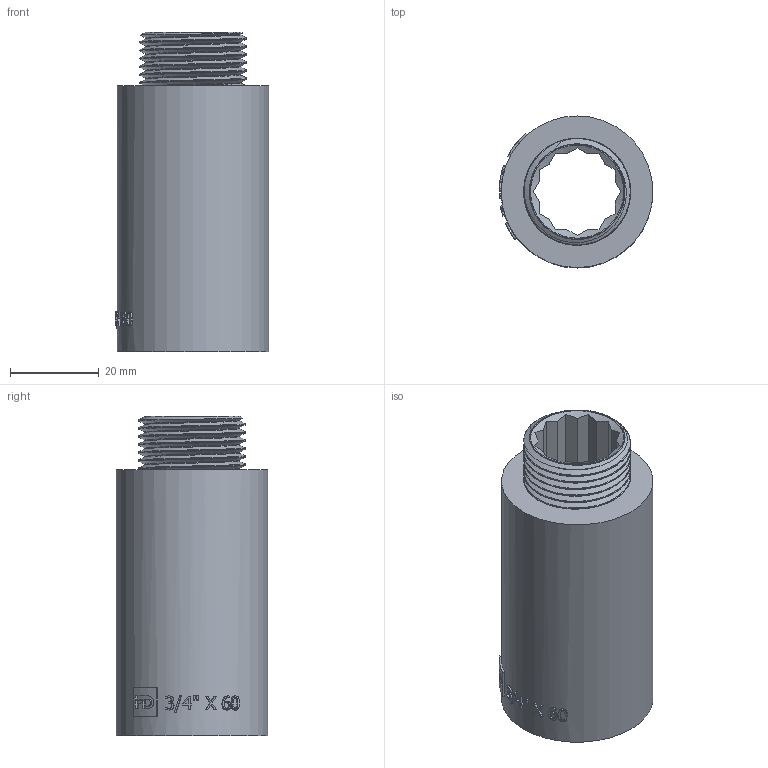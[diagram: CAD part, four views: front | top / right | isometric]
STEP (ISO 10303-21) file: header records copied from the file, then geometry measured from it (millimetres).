
FILE_DESCRIPTION(/* description */ (''),/* implementation_level */ '2;1');
FILE_NAME(/* name */ 'C:\Users\Doom\Desktop\Фадотех\Резьба\UN60 18.03.2020\UN60 18.03.2020.stp',/* time_stamp */ '2022-01-22T13:53:36+02:00',/* author */ ('Doom'),/* organization */ (''),/* preprocessor_version */ 'ST-DEVELOPER v18',/* originating_system */ 'Autodesk Inventor 2020',/* authorisation */ '');
FILE_SCHEMA (('AUTOMOTIVE_DESIGN { 1 0 10303 214 3 1 1 }'));
Length unit declared in the file: millimetre
Products named in the file (1): UD60 18.03.2020
Bounding box: 34.7 x 34.2 x 72 mm (x, y, z)
Volume: 28888.4 mm3; surface area: 21089.1 mm2
Topology: 3 solids, 3 shells, 207 faces, 569 edges, 382 vertices
Faces by surface type: bspline 83, plane 81, cylinder 39, cone 4
Full cylindrical faces by diameter (mm): 21.44 x2, 23.75 x10, 24.1 x1, 24.13 x5, 26.44 x2, 34.2 x1
Entity records: 17681 total; most frequent: CARTESIAN_POINT 13090, ORIENTED_EDGE 1130, DIRECTION 643, EDGE_CURVE 565, VERTEX_POINT 380, EDGE_LOOP 229, AXIS2_PLACEMENT_3D 219, B_SPLINE_CURVE_WITH_KNOTS 218
